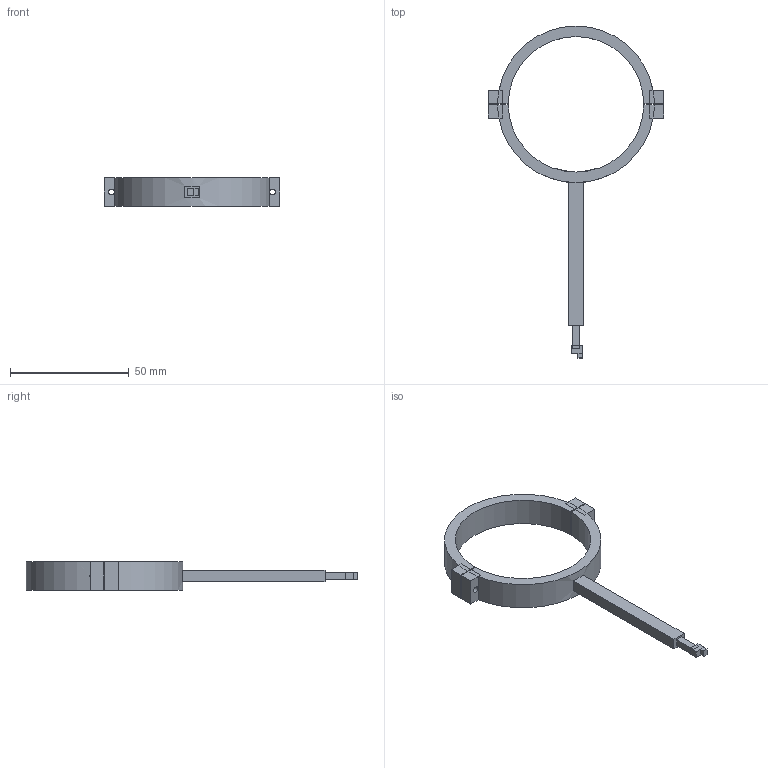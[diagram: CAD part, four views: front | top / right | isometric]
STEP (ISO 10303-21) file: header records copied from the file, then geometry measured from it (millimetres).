
FILE_DESCRIPTION(('Open CASCADE Model'),'2;1');
FILE_NAME('Open CASCADE Shape Model','2026-11-22T21:42:01',('Author'),( 'Open CASCADE'),'Open CASCADE STEP processor 7.9','Open CASCADE 7.9' ,'Unknown');
FILE_SCHEMA(('AUTOMOTIVE_DESIGN { 1 0 10303 214 1 1 1 1 }'));
Length unit declared in the file: millimetre
Products named in the file (4): Open CASCADE STEP translator 7.9 4; Open CASCADE STEP translator 7.9 4.1; Open CASCADE STEP translator 7.9 4.2; Open CASCADE STEP translator 7.9 4.3
Assembly tree (3 placements, depth 2):
  Open CASCADE STEP translator 7.9 4
    Open CASCADE STEP translator 7.9 4.1
    Open CASCADE STEP translator 7.9 4.2
    Open CASCADE STEP translator 7.9 4.3
Bounding box: 74 x 139.9 x 12 mm (x, y, z)
Volume: 13163.3 mm3; surface area: 9029.8 mm2
Topology: 3 solids, 3 shells, 81 faces, 201 edges, 123 vertices
Faces by surface type: plane 70, cylinder 10, cone 1
Full cylindrical faces by diameter (mm): 2.05 x1, 2.5 x2, 2.7 x1, 3.2 x2
Entity records: 5655 total; most frequent: CARTESIAN_POINT 1598, DIRECTION 726, LINE 431, VECTOR 431, ORIENTED_EDGE 402, PCURVE 402, DEFINITIONAL_REPRESENTATION 402, EDGE_CURVE 201
